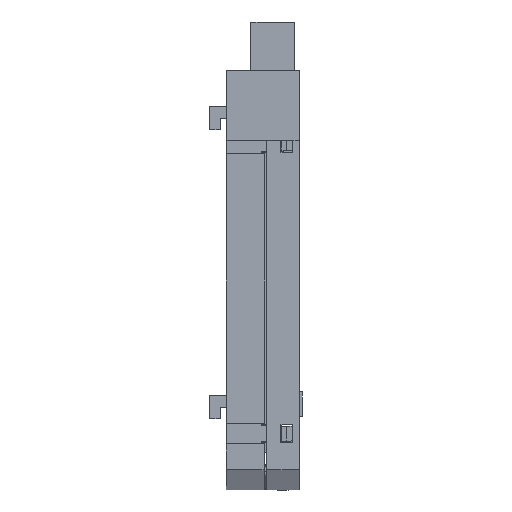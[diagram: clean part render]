
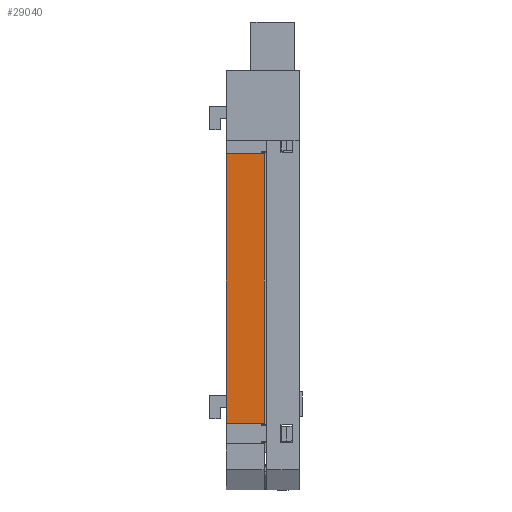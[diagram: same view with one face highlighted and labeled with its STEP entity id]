
A CAD part, front view. The second image highlights one B-rep face of the part: STEP entity #29040.
In plain terms, the highlighted planar face has unit normal (0, -1, 0).
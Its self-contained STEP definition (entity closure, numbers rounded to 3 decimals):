
#401 = VECTOR ( 'NONE', #15395, 1000. ) ;
#2507 = FACE_OUTER_BOUND ( 'NONE', #8499, .T. ) ;
#2576 = CARTESIAN_POINT ( 'NONE',  ( 0., 0., -11.141 ) ) ;
#2818 = VERTEX_POINT ( 'NONE', #9715 ) ;
#2947 = LINE ( 'NONE', #15032, #21918 ) ;
#4159 = EDGE_CURVE ( 'NONE', #21983, #2818, #2947, .T. ) ;
#6810 = LINE ( 'NONE', #12443, #19213 ) ;
#8499 = EDGE_LOOP ( 'NONE', ( #11494, #24088, #28526, #20154 ) ) ;
#9352 = CARTESIAN_POINT ( 'NONE',  ( 6.5, 0., -11.141 ) ) ;
#9715 = CARTESIAN_POINT ( 'NONE',  ( 0., 0., -57.349 ) ) ;
#11494 = ORIENTED_EDGE ( 'NONE', *, *, #4159, .T. ) ;
#12185 = CARTESIAN_POINT ( 'NONE',  ( 7., 0., 0. ) ) ;
#12443 = CARTESIAN_POINT ( 'NONE',  ( 0., 0., -57.349 ) ) ;
#13522 = CARTESIAN_POINT ( 'NONE',  ( 0., 0., -11.141 ) ) ;
#13536 = EDGE_CURVE ( 'NONE', #29587, #23460, #20930, .T. ) ;
#13913 = CARTESIAN_POINT ( 'NONE',  ( 6.5, 0., -57.349 ) ) ;
#14566 = PLANE ( 'NONE',  #24558 ) ;
#14683 = DIRECTION ( 'NONE',  ( 0., 1., 0. ) ) ;
#14941 = DIRECTION ( 'NONE',  ( 1., 0., 0. ) ) ;
#15032 = CARTESIAN_POINT ( 'NONE',  ( 0., 0., 0. ) ) ;
#15395 = DIRECTION ( 'NONE',  ( 0., 0., -1. ) ) ;
#17496 = DIRECTION ( 'NONE',  ( 0., 0., -1. ) ) ;
#19213 = VECTOR ( 'NONE', #14941, 1000. ) ;
#20154 = ORIENTED_EDGE ( 'NONE', *, *, #24390, .F. ) ;
#20930 = LINE ( 'NONE', #27698, #401 ) ;
#21002 = DIRECTION ( 'NONE',  ( 1., 0., 0. ) ) ;
#21876 = VECTOR ( 'NONE', #21002, 1000. ) ;
#21918 = VECTOR ( 'NONE', #17496, 1000. ) ;
#21983 = VERTEX_POINT ( 'NONE', #2576 ) ;
#23114 = EDGE_CURVE ( 'NONE', #2818, #23460, #6810, .T. ) ;
#23460 = VERTEX_POINT ( 'NONE', #13913 ) ;
#24088 = ORIENTED_EDGE ( 'NONE', *, *, #23114, .T. ) ;
#24390 = EDGE_CURVE ( 'NONE', #21983, #29587, #28425, .T. ) ;
#24558 = AXIS2_PLACEMENT_3D ( 'NONE', #12185, #14683, #31966 ) ;
#27698 = CARTESIAN_POINT ( 'NONE',  ( 6.5, 0., 0. ) ) ;
#28425 = LINE ( 'NONE', #13522, #21876 ) ;
#28526 = ORIENTED_EDGE ( 'NONE', *, *, #13536, .F. ) ;
#29040 = ADVANCED_FACE ( 'NONE', ( #2507 ), #14566, .F. ) ;
#29587 = VERTEX_POINT ( 'NONE', #9352 ) ;
#31966 = DIRECTION ( 'NONE',  ( 0., 0., 1. ) ) ;
